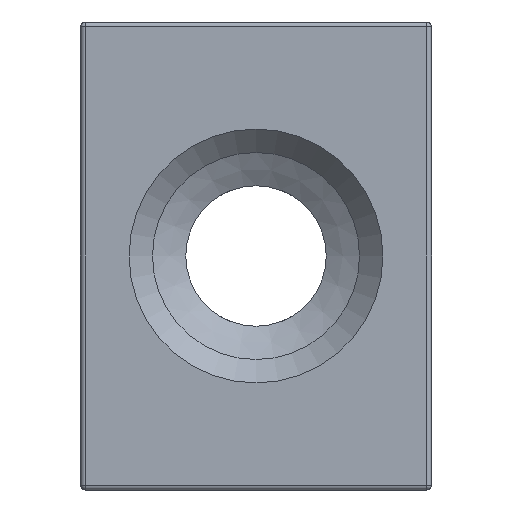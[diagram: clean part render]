
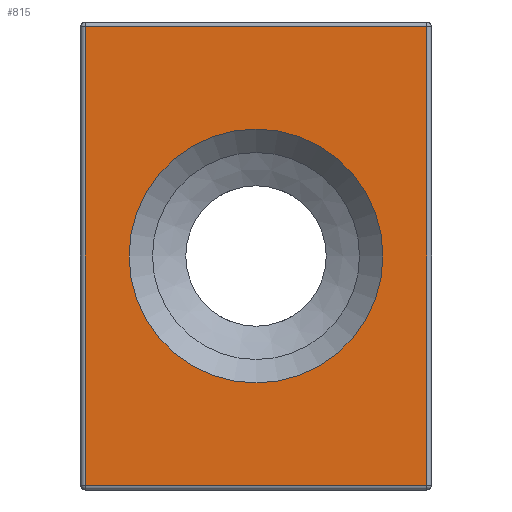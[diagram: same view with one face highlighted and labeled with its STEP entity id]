
A CAD part, left-side view. The second image highlights one B-rep face of the part: STEP entity #815.
In plain terms, the highlighted planar face has unit normal (-1, 0, 0).
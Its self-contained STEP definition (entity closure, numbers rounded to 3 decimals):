
#61=FACE_BOUND('',#147,.T.);
#73=PLANE('',#908);
#90=FACE_OUTER_BOUND('',#146,.T.);
#146=EDGE_LOOP('',(#613,#614,#615,#616));
#147=EDGE_LOOP('',(#617));
#215=LINE('',#1365,#264);
#216=LINE('',#1367,#265);
#217=LINE('',#1369,#266);
#218=LINE('',#1370,#267);
#264=VECTOR('',#1086,10.);
#265=VECTOR('',#1087,10.);
#266=VECTOR('',#1088,10.);
#267=VECTOR('',#1089,10.);
#310=CIRCLE('',#906,5.424);
#386=VERTEX_POINT('',#1357);
#388=VERTEX_POINT('',#1363);
#389=VERTEX_POINT('',#1364);
#390=VERTEX_POINT('',#1366);
#391=VERTEX_POINT('',#1368);
#468=EDGE_CURVE('',#386,#386,#310,.T.);
#471=EDGE_CURVE('',#388,#389,#215,.T.);
#472=EDGE_CURVE('',#390,#388,#216,.T.);
#473=EDGE_CURVE('',#391,#390,#217,.T.);
#474=EDGE_CURVE('',#389,#391,#218,.T.);
#613=ORIENTED_EDGE('',*,*,#471,.F.);
#614=ORIENTED_EDGE('',*,*,#472,.F.);
#615=ORIENTED_EDGE('',*,*,#473,.F.);
#616=ORIENTED_EDGE('',*,*,#474,.F.);
#617=ORIENTED_EDGE('',*,*,#468,.F.);
#815=ADVANCED_FACE('',(#90,#61),#73,.T.);
#906=AXIS2_PLACEMENT_3D('',#1358,#1079,#1080);
#908=AXIS2_PLACEMENT_3D('',#1362,#1084,#1085);
#1079=DIRECTION('center_axis',(-1.,0.,0.));
#1080=DIRECTION('ref_axis',(0.,1.,0.));
#1084=DIRECTION('center_axis',(-1.,0.,0.));
#1085=DIRECTION('ref_axis',(0.,0.,1.));
#1086=DIRECTION('',(0.,1.,0.));
#1087=DIRECTION('',(0.,0.,-1.));
#1088=DIRECTION('',(0.,-1.,0.));
#1089=DIRECTION('',(0.,0.,1.));
#1357=CARTESIAN_POINT('',(-22.5,-5.424,0.));
#1358=CARTESIAN_POINT('Origin',(-22.5,0.,0.));
#1362=CARTESIAN_POINT('Origin',(-22.5,0.,-10.));
#1363=CARTESIAN_POINT('',(-22.5,-7.3,-9.8));
#1364=CARTESIAN_POINT('',(-22.5,7.3,-9.8));
#1365=CARTESIAN_POINT('',(-22.5,0.,-9.8));
#1366=CARTESIAN_POINT('',(-22.5,-7.3,9.8));
#1367=CARTESIAN_POINT('',(-22.5,-7.3,-5.));
#1368=CARTESIAN_POINT('',(-22.5,7.3,9.8));
#1369=CARTESIAN_POINT('',(-22.5,0.,9.8));
#1370=CARTESIAN_POINT('',(-22.5,7.3,-5.));
